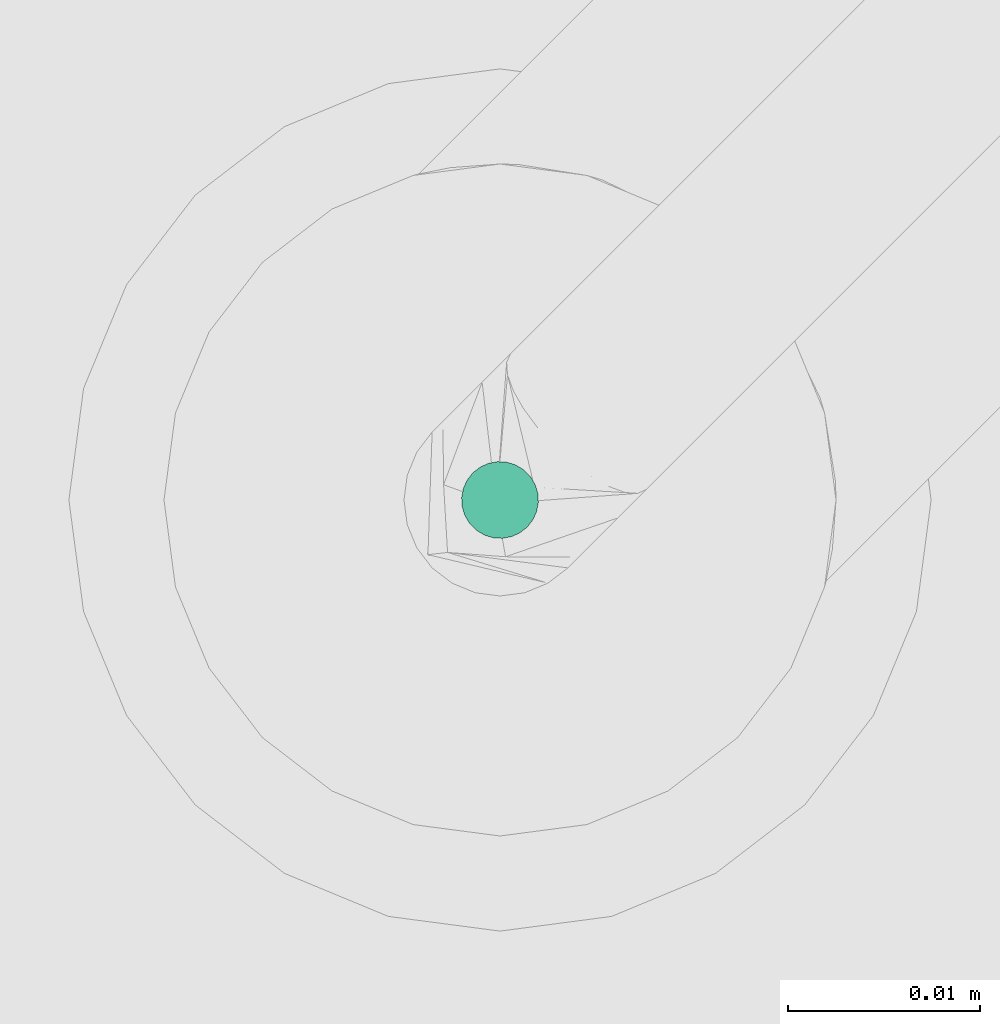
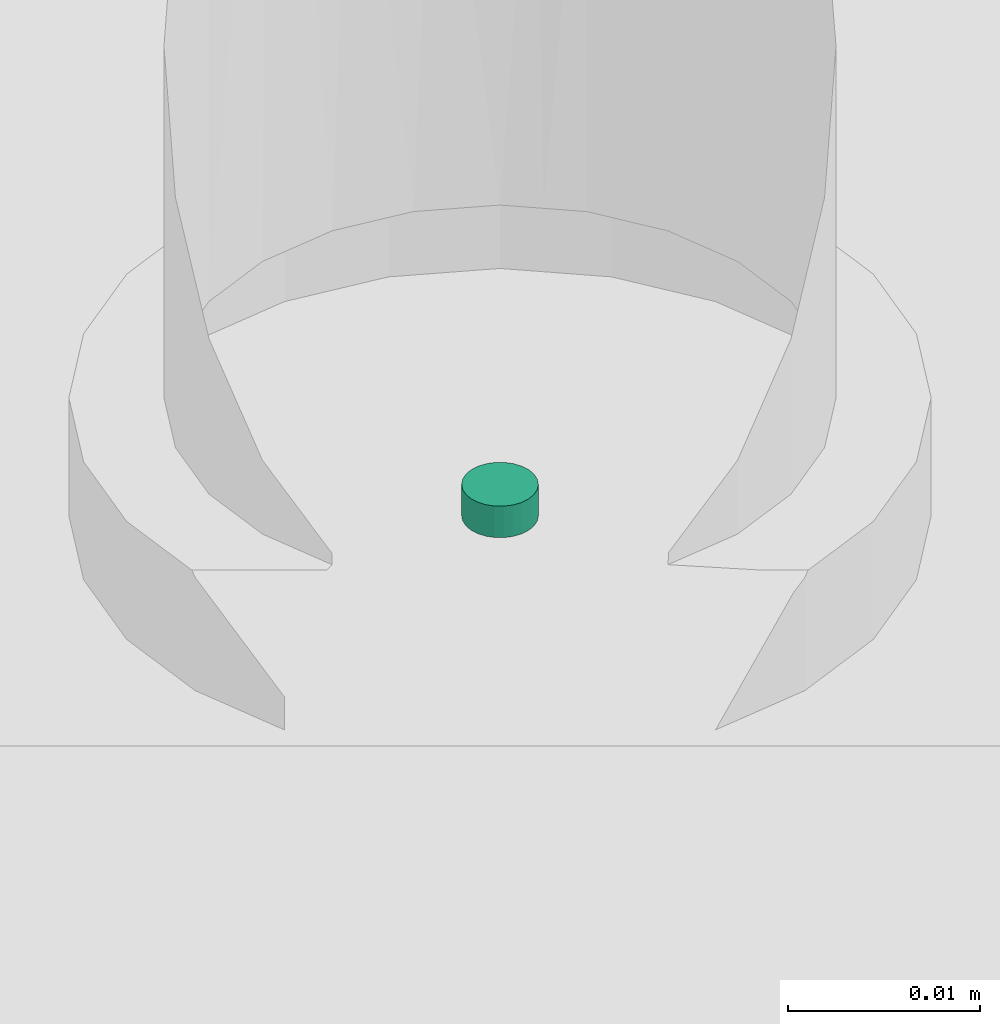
# One storey, part 73 of 155: 1 flow terminal.
"""IFC2X3 building model written with IfcOpenShell, lengths in metres."""

from ifc_helpers import new_model, entity, si_unit, converted_unit, derived_unit, direction, frame, frame_2d, origin, place, context, subcontext, project, spatial, circle, extrude, source, transform, mapped, element, save


model = new_model("IFC2X3")

# Units and contexts
model_context = context("Model", 3, precision=1e-05, world=origin(), true_north=direction((6.12303176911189e-17, 1.0)))
body_context = subcontext(model_context, "Body", "Model", "MODEL_VIEW")
ifc_project = project(units=[si_unit("LENGTHUNIT", "METRE"), si_unit("AREAUNIT", "SQUARE_METRE"), si_unit("VOLUMEUNIT", "CUBIC_METRE"), converted_unit("PLANEANGLEUNIT", "DEGREE", entity("IfcRatioMeasure", 0.0174532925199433), si_unit("PLANEANGLEUNIT", "RADIAN"), dimensions=[0, 0, 0, 0, 0, 0, 0]), si_unit("MASSUNIT", "GRAM", prefix="KILO"), derived_unit("MASSDENSITYUNIT", [(si_unit("MASSUNIT", "GRAM", prefix="KILO"), 1), (si_unit("LENGTHUNIT", "METRE"), -3)]), si_unit("TIMEUNIT", "SECOND"), si_unit("FREQUENCYUNIT", "HERTZ"), si_unit("THERMODYNAMICTEMPERATUREUNIT", "DEGREE_CELSIUS"), derived_unit("THERMALTRANSMITTANCEUNIT", [(si_unit("MASSUNIT", "GRAM", prefix="KILO"), 1), (si_unit("THERMODYNAMICTEMPERATUREUNIT", "KELVIN"), -1), (si_unit("TIMEUNIT", "SECOND"), -3)]), derived_unit("VOLUMETRICFLOWRATEUNIT", [(si_unit("LENGTHUNIT", "METRE"), 3), (si_unit("TIMEUNIT", "SECOND"), -1)]), si_unit("ELECTRICCURRENTUNIT", "AMPERE"), si_unit("ELECTRICVOLTAGEUNIT", "VOLT"), si_unit("POWERUNIT", "WATT"), si_unit("FORCEUNIT", "NEWTON", prefix="KILO"), si_unit("ILLUMINANCEUNIT", "LUX"), si_unit("LUMINOUSFLUXUNIT", "LUMEN"), si_unit("LUMINOUSINTENSITYUNIT", "CANDELA"), derived_unit("USERDEFINED", [(si_unit("MASSUNIT", "GRAM", prefix="KILO"), -1), (si_unit("LENGTHUNIT", "METRE"), -2), (si_unit("TIMEUNIT", "SECOND"), 3), (si_unit("LUMINOUSFLUXUNIT", "LUMEN"), 1)]), derived_unit("LINEARVELOCITYUNIT", [(si_unit("LENGTHUNIT", "METRE"), 1), (si_unit("TIMEUNIT", "SECOND"), -1)]), si_unit("PRESSUREUNIT", "PASCAL"), derived_unit("USERDEFINED", [(si_unit("LENGTHUNIT", "METRE"), -2), (si_unit("MASSUNIT", "GRAM", prefix="KILO"), 1), (si_unit("TIMEUNIT", "SECOND"), -2)])], contexts=[model_context])

# Site, building, storey, space
site_placement = place(None, frame((26.9889013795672, -17.5624287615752, 0.0)))
site = spatial("IfcSite", under=ifc_project, at=site_placement, Name="Default", CompositionType="ELEMENT")
building_placement = place(site_placement, origin())
building = spatial("IfcBuilding", under=site, at=building_placement, Name="C. C. L. Monsenhor Antônio Sampaio", CompositionType="ELEMENT")
storey_placement = place(building_placement, frame((0.0, 0.0, 1.19999999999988)))
storey = spatial("IfcBuildingStorey", under=building, at=storey_placement, Name="Nível 1.2", CompositionType="ELEMENT", Elevation=1.19999999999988)
space_placement = place(storey_placement, origin())
space = spatial("IfcSpace", under=storey, at=space_placement, Name="95", CompositionType="ELEMENT", InteriorOrExteriorSpace="INTERNAL")

# Flow terminal
shared_shape = source(origin(), body_context, "Body", "SweptSolid", [
    extrude(circle(Radius=0.002, at=frame_2d((-1.63609214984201e-20, -3.23108914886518e-18), x_axis=(1.0, 0.0))), origin(), (0.0, 0.0, 1.0), 0.00199999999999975),
])
flow_terminal_placement = place(space_placement, frame((-4.37429051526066, -10.0570622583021, 0.815000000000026), z_axis=(0.0, 0.0, 1.0), x_axis=(-0.707106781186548, 0.707106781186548, 0.0)))
element("IfcFlowTerminal", 1, at=flow_terminal_placement, inside=space, Name="FDE_H613_DispositivosRestritoresDeVazão:H613_RestritorDeVazãoPara6L/minTorneiraseMisturadores", ObjectType="H613_RestritorDeVazãoPara6L/minTorneiraseMisturadores", context=body_context, shape_type="MappedRepresentation", body=[
    mapped(shared_shape, transform((0.0, 0.0, 0.0), scale=1.0)),
])

save(model, "model.ifc")
